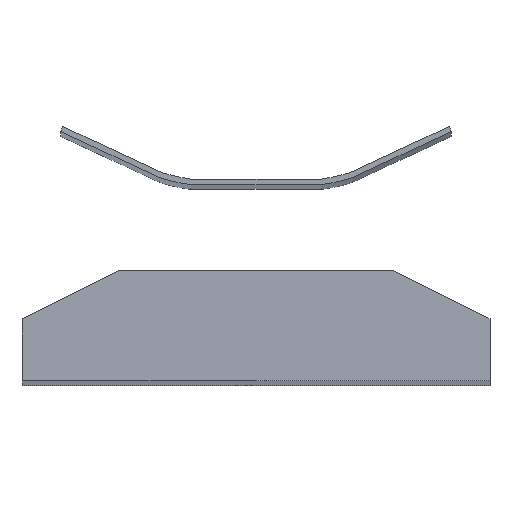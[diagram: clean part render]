
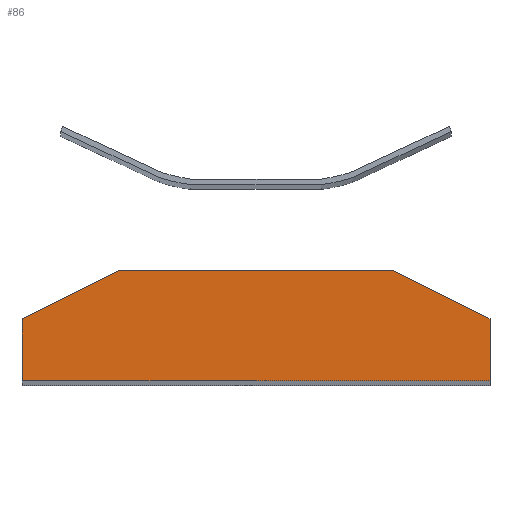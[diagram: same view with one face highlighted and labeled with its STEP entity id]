
A CAD part, top view. The second image highlights one B-rep face of the part: STEP entity #86.
In plain terms, the highlighted planar face has unit normal (0, 0, 1).
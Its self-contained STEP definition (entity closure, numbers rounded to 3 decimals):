
#2 = CARTESIAN_POINT ( 'NONE',  ( 200., 160., 2000. ) ) ;
#8 = DIRECTION ( 'NONE',  ( -0.894, -0.447, 0. ) ) ;
#10 = CARTESIAN_POINT ( 'NONE',  ( -340., 90., 2000. ) ) ;
#13 = DIRECTION ( 'NONE',  ( 0., 1., 0. ) ) ;
#22 = CARTESIAN_POINT ( 'NONE',  ( -200., 160., 2000. ) ) ;
#77 = DIRECTION ( 'NONE',  ( -1., 0., 0. ) ) ;
#86 = ADVANCED_FACE ( 'NONE', ( #363 ), #490, .F. ) ;
#103 = CARTESIAN_POINT ( 'NONE',  ( 340., 90., 2000. ) ) ;
#148 = DIRECTION ( 'NONE',  ( -0.894, 0.447, 0. ) ) ;
#171 = VECTOR ( 'NONE', #704, 1000. ) ;
#176 = LINE ( 'NONE', #711, #171 ) ;
#195 = VECTOR ( 'NONE', #8, 1000. ) ;
#198 = LINE ( 'NONE', #10, #195 ) ;
#201 = VECTOR ( 'NONE', #77, 1000. ) ;
#208 = LINE ( 'NONE', #22, #201 ) ;
#238 = EDGE_LOOP ( 'NONE', ( #540, #423, #393, #397, #446, #415 ) ) ;
#268 = CARTESIAN_POINT ( 'NONE',  ( 200., 160., 2000. ) ) ;
#280 = DIRECTION ( 'NONE',  ( 0., -1., 0. ) ) ;
#289 = CARTESIAN_POINT ( 'NONE',  ( -340., 90., 2000. ) ) ;
#305 = VECTOR ( 'NONE', #13, 1000. ) ;
#309 = LINE ( 'NONE', #379, #305 ) ;
#310 = VECTOR ( 'NONE', #148, 1000. ) ;
#317 = LINE ( 'NONE', #359, #331 ) ;
#318 = LINE ( 'NONE', #268, #310 ) ;
#331 = VECTOR ( 'NONE', #280, 1000. ) ;
#359 = CARTESIAN_POINT ( 'NONE',  ( -340., 0., 2000. ) ) ;
#363 = FACE_OUTER_BOUND ( 'NONE', #238, .T. ) ;
#379 = CARTESIAN_POINT ( 'NONE',  ( 340., 90., 2000. ) ) ;
#393 = ORIENTED_EDGE ( 'NONE', *, *, #661, .T. ) ;
#397 = ORIENTED_EDGE ( 'NONE', *, *, #657, .T. ) ;
#415 = ORIENTED_EDGE ( 'NONE', *, *, #708, .T. ) ;
#423 = ORIENTED_EDGE ( 'NONE', *, *, #724, .T. ) ;
#437 = DIRECTION ( 'NONE',  ( -1., 0., 0. ) ) ;
#446 = ORIENTED_EDGE ( 'NONE', *, *, #702, .T. ) ;
#461 = VERTEX_POINT ( 'NONE', #591 ) ;
#462 = VERTEX_POINT ( 'NONE', #575 ) ;
#470 = VERTEX_POINT ( 'NONE', #103 ) ;
#490 = PLANE ( 'NONE',  #652 ) ;
#506 = DIRECTION ( 'NONE',  ( 0., 0., -1. ) ) ;
#509 = CARTESIAN_POINT ( 'NONE',  ( 0., 0., 2000. ) ) ;
#540 = ORIENTED_EDGE ( 'NONE', *, *, #628, .T. ) ;
#575 = CARTESIAN_POINT ( 'NONE',  ( -340., 0., 2000. ) ) ;
#580 = VERTEX_POINT ( 'NONE', #584 ) ;
#584 = CARTESIAN_POINT ( 'NONE',  ( 340., 0., 2000. ) ) ;
#591 = CARTESIAN_POINT ( 'NONE',  ( -200., 160., 2000. ) ) ;
#628 = EDGE_CURVE ( 'NONE', #643, #462, #317, .T. ) ;
#643 = VERTEX_POINT ( 'NONE', #289 ) ;
#652 = AXIS2_PLACEMENT_3D ( 'NONE', #509, #506, #437 ) ;
#657 = EDGE_CURVE ( 'NONE', #470, #717, #318, .T. ) ;
#661 = EDGE_CURVE ( 'NONE', #580, #470, #309, .T. ) ;
#702 = EDGE_CURVE ( 'NONE', #717, #461, #208, .T. ) ;
#704 = DIRECTION ( 'NONE',  ( 1., 0., 0. ) ) ;
#708 = EDGE_CURVE ( 'NONE', #461, #643, #198, .T. ) ;
#711 = CARTESIAN_POINT ( 'NONE',  ( -340., 0., 2000. ) ) ;
#717 = VERTEX_POINT ( 'NONE', #2 ) ;
#724 = EDGE_CURVE ( 'NONE', #462, #580, #176, .T. ) ;
